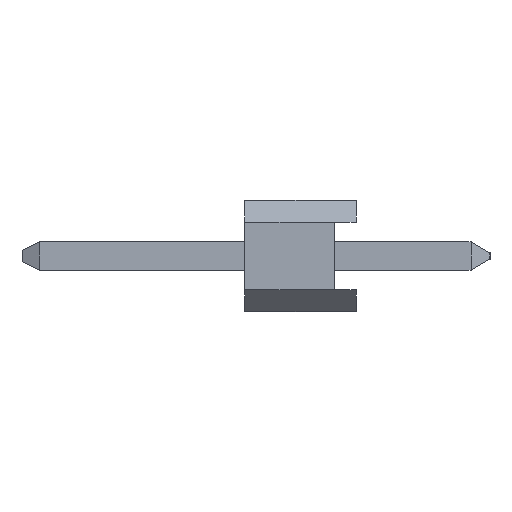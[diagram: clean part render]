
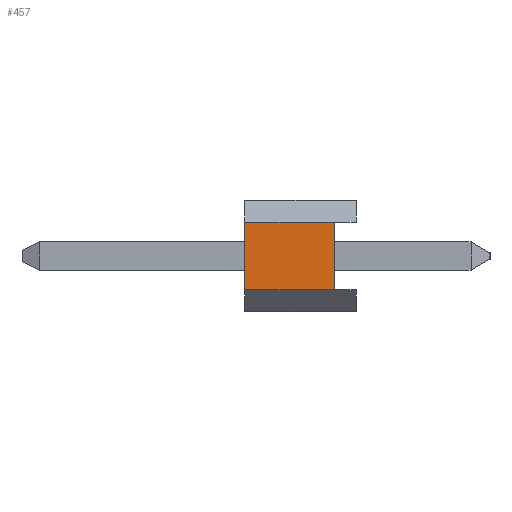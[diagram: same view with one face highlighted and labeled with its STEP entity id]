
A CAD part, left-side view. The second image highlights one B-rep face of the part: STEP entity #457.
In plain terms, the highlighted planar face has unit normal (-1, 0, 0).
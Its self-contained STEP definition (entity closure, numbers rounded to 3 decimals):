
#1 = VECTOR ( 'NONE', #693, 1000. ) ;
#46 = ORIENTED_EDGE ( 'NONE', *, *, #857, .T. ) ;
#53 = DIRECTION ( 'NONE',  ( 0., -1., 0. ) ) ;
#67 = DIRECTION ( 'NONE',  ( 0., 0., 1. ) ) ;
#73 = CARTESIAN_POINT ( 'NONE',  ( -1.27, 2.54, 0.665 ) ) ;
#100 = DIRECTION ( 'NONE',  ( 0., 0., 1. ) ) ;
#126 = DIRECTION ( 'NONE',  ( 1., 0., 0. ) ) ;
#186 = CARTESIAN_POINT ( 'NONE',  ( -1.27, 0.5, -0.875 ) ) ;
#223 = LINE ( 'NONE', #579, #408 ) ;
#235 = CARTESIAN_POINT ( 'NONE',  ( -1.27, 0.5, 0.665 ) ) ;
#238 = EDGE_CURVE ( 'NONE', #508, #271, #646, .T. ) ;
#271 = VERTEX_POINT ( 'NONE', #73 ) ;
#272 = CARTESIAN_POINT ( 'NONE',  ( -1.27, 2.54, -1.375 ) ) ;
#291 = VECTOR ( 'NONE', #53, 1000. ) ;
#408 = VECTOR ( 'NONE', #100, 1000. ) ;
#426 = VECTOR ( 'NONE', #67, 1000. ) ;
#441 = AXIS2_PLACEMENT_3D ( 'NONE', #604, #126, #686 ) ;
#443 = VERTEX_POINT ( 'NONE', #235 ) ;
#457 = ADVANCED_FACE ( 'NONE', ( #632 ), #810, .F. ) ;
#507 = LINE ( 'NONE', #546, #291 ) ;
#508 = VERTEX_POINT ( 'NONE', #860 ) ;
#513 = ORIENTED_EDGE ( 'NONE', *, *, #598, .T. ) ;
#546 = CARTESIAN_POINT ( 'NONE',  ( -1.27, 2.54, -0.875 ) ) ;
#571 = EDGE_LOOP ( 'NONE', ( #513, #843, #46, #600 ) ) ;
#579 = CARTESIAN_POINT ( 'NONE',  ( -1.27, 0.5, -0.875 ) ) ;
#598 = EDGE_CURVE ( 'NONE', #508, #848, #507, .T. ) ;
#600 = ORIENTED_EDGE ( 'NONE', *, *, #238, .F. ) ;
#604 = CARTESIAN_POINT ( 'NONE',  ( -1.27, 2.54, -1.375 ) ) ;
#632 = FACE_OUTER_BOUND ( 'NONE', #571, .T. ) ;
#646 = LINE ( 'NONE', #272, #426 ) ;
#686 = DIRECTION ( 'NONE',  ( 0., 0., -1. ) ) ;
#693 = DIRECTION ( 'NONE',  ( 0., 1., 0. ) ) ;
#707 = CARTESIAN_POINT ( 'NONE',  ( -1.27, 2.54, 0.665 ) ) ;
#810 = PLANE ( 'NONE',  #441 ) ;
#817 = EDGE_CURVE ( 'NONE', #848, #443, #223, .T. ) ;
#843 = ORIENTED_EDGE ( 'NONE', *, *, #817, .T. ) ;
#848 = VERTEX_POINT ( 'NONE', #186 ) ;
#857 = EDGE_CURVE ( 'NONE', #443, #271, #1037, .T. ) ;
#860 = CARTESIAN_POINT ( 'NONE',  ( -1.27, 2.54, -0.875 ) ) ;
#1037 = LINE ( 'NONE', #707, #1 ) ;
